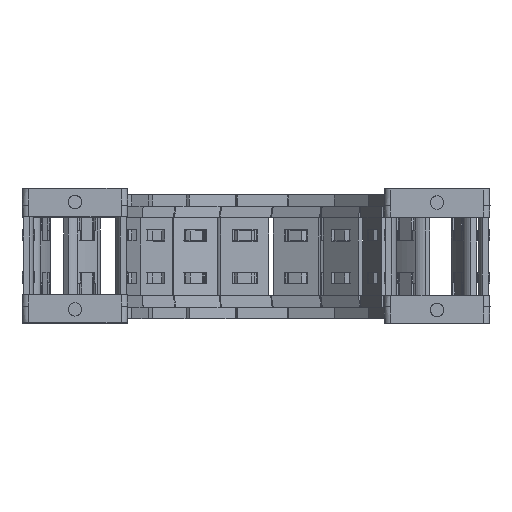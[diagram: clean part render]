
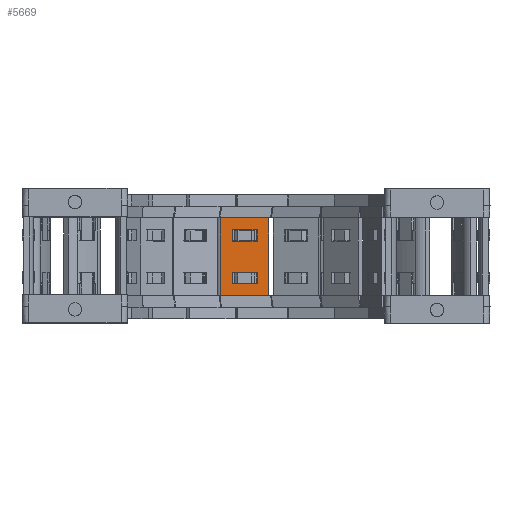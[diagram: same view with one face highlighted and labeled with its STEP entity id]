
A CAD part, top view. The second image highlights one B-rep face of the part: STEP entity #5669.
In plain terms, the highlighted planar face has unit normal (0.035, 0, 0.999) as drawn and (0, 1, 0) by its records, which use the part's own axes.
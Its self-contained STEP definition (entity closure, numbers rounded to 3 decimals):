
#5089=DIRECTION('',(0.,0.,1.));
#5090=VECTOR('',#5089,15.8);
#5091=CARTESIAN_POINT('',(10.74,1.5,-7.9));
#5092=LINE('',#5091,#5090);
#5093=DIRECTION('',(-1.,0.,0.));
#5094=VECTOR('',#5093,25.5);
#5095=CARTESIAN_POINT('',(10.74,1.5,7.9));
#5096=LINE('',#5095,#5094);
#5097=DIRECTION('',(0.,0.,-1.));
#5098=VECTOR('',#5097,15.8);
#5099=CARTESIAN_POINT('',(-14.76,1.5,7.9));
#5100=LINE('',#5099,#5098);
#5101=DIRECTION('',(1.,0.,0.));
#5102=VECTOR('',#5101,3.648);
#5103=CARTESIAN_POINT('',(3.122,1.5,4.075));
#5104=LINE('',#5103,#5102);
#5105=DIRECTION('',(0.,0.,-1.));
#5106=VECTOR('',#5105,8.15);
#5107=CARTESIAN_POINT('',(6.77,1.5,4.075));
#5108=LINE('',#5107,#5106);
#5109=DIRECTION('',(-1.,0.,0.));
#5110=VECTOR('',#5109,3.648);
#5111=CARTESIAN_POINT('',(6.77,1.5,-4.075));
#5112=LINE('',#5111,#5110);
#5113=DIRECTION('',(0.,0.,-1.));
#5114=VECTOR('',#5113,8.15);
#5115=CARTESIAN_POINT('',(-7.142,1.5,4.075));
#5116=LINE('',#5115,#5114);
#5117=DIRECTION('',(-1.,0.,0.));
#5118=VECTOR('',#5117,3.648);
#5119=CARTESIAN_POINT('',(-7.142,1.5,-4.075));
#5120=LINE('',#5119,#5118);
#5121=DIRECTION('',(0.,0.,1.));
#5122=VECTOR('',#5121,8.15);
#5123=CARTESIAN_POINT('',(-10.79,1.5,-4.075));
#5124=LINE('',#5123,#5122);
#5125=DIRECTION('',(1.,0.,0.));
#5126=VECTOR('',#5125,3.648);
#5127=CARTESIAN_POINT('',(-10.79,1.5,4.075));
#5128=LINE('',#5127,#5126);
#5133=DIRECTION('',(-1.,0.,0.));
#5134=VECTOR('',#5133,25.5);
#5135=CARTESIAN_POINT('',(10.74,1.5,-7.9));
#5136=LINE('',#5135,#5134);
#5254=DIRECTION('',(0.,0.,-1.));
#5255=VECTOR('',#5254,8.15);
#5256=CARTESIAN_POINT('',(3.122,1.5,4.075));
#5257=LINE('',#5256,#5255);
#5439=CARTESIAN_POINT('',(6.77,1.5,4.075));
#5440=VERTEX_POINT('',#5439);
#5441=CARTESIAN_POINT('',(3.122,1.5,4.075));
#5442=VERTEX_POINT('',#5441);
#5483=CARTESIAN_POINT('',(3.122,1.5,-4.075));
#5484=VERTEX_POINT('',#5483);
#5485=CARTESIAN_POINT('',(6.77,1.5,-4.075));
#5486=VERTEX_POINT('',#5485);
#5487=CARTESIAN_POINT('',(10.74,1.5,7.9));
#5489=VERTEX_POINT('',#5487);
#5491=CARTESIAN_POINT('',(10.74,1.5,-7.9));
#5492=VERTEX_POINT('',#5491);
#5515=CARTESIAN_POINT('',(-7.142,1.5,4.075));
#5516=CARTESIAN_POINT('',(-7.142,1.5,-4.075));
#5517=VERTEX_POINT('',#5515);
#5518=VERTEX_POINT('',#5516);
#5519=CARTESIAN_POINT('',(-10.79,1.5,-4.075));
#5520=VERTEX_POINT('',#5519);
#5521=CARTESIAN_POINT('',(-10.79,1.5,4.075));
#5522=VERTEX_POINT('',#5521);
#5523=CARTESIAN_POINT('',(-14.76,1.5,7.9));
#5524=VERTEX_POINT('',#5523);
#5527=CARTESIAN_POINT('',(-14.76,1.5,-7.9));
#5528=VERTEX_POINT('',#5527);
#5638=CARTESIAN_POINT('',(42.48,1.5,10.061));
#5639=DIRECTION('',(0.,-1.,0.));
#5640=DIRECTION('',(0.,0.,-1.));
#5641=AXIS2_PLACEMENT_3D('',#5638,#5639,#5640);
#5642=PLANE('',#5641);
#5643=ORIENTED_EDGE('',*,*,#5577,.T.);
#5644=ORIENTED_EDGE('',*,*,#5603,.T.);
#5645=ORIENTED_EDGE('',*,*,#5616,.T.);
#5647=ORIENTED_EDGE('',*,*,#5646,.F.);
#5648=EDGE_LOOP('',(#5643,#5644,#5645,#5647));
#5649=FACE_OUTER_BOUND('',#5648,.F.);
#5651=ORIENTED_EDGE('',*,*,#5650,.F.);
#5652=ORIENTED_EDGE('',*,*,#5540,.T.);
#5654=ORIENTED_EDGE('',*,*,#5653,.T.);
#5656=ORIENTED_EDGE('',*,*,#5655,.T.);
#5657=EDGE_LOOP('',(#5651,#5652,#5654,#5656));
#5658=FACE_BOUND('',#5657,.F.);
#5660=ORIENTED_EDGE('',*,*,#5659,.T.);
#5662=ORIENTED_EDGE('',*,*,#5661,.T.);
#5664=ORIENTED_EDGE('',*,*,#5663,.T.);
#5666=ORIENTED_EDGE('',*,*,#5665,.T.);
#5667=EDGE_LOOP('',(#5660,#5662,#5664,#5666));
#5668=FACE_BOUND('',#5667,.F.);
#5669=ADVANCED_FACE('',(#5649,#5658,#5668),#5642,.F.);
#5540=EDGE_CURVE('',#5442,#5440,#5104,.T.);
#5577=EDGE_CURVE('',#5492,#5489,#5092,.T.);
#5603=EDGE_CURVE('',#5489,#5524,#5096,.T.);
#5616=EDGE_CURVE('',#5524,#5528,#5100,.T.);
#5646=EDGE_CURVE('',#5492,#5528,#5136,.T.);
#5650=EDGE_CURVE('',#5442,#5484,#5257,.T.);
#5653=EDGE_CURVE('',#5440,#5486,#5108,.T.);
#5655=EDGE_CURVE('',#5486,#5484,#5112,.T.);
#5659=EDGE_CURVE('',#5517,#5518,#5116,.T.);
#5661=EDGE_CURVE('',#5518,#5520,#5120,.T.);
#5663=EDGE_CURVE('',#5520,#5522,#5124,.T.);
#5665=EDGE_CURVE('',#5522,#5517,#5128,.T.);
